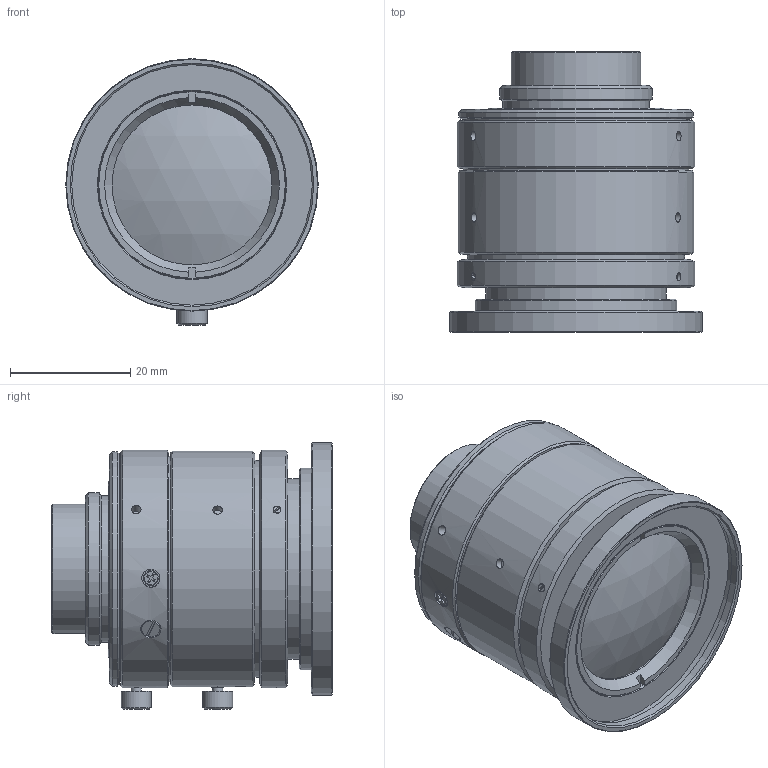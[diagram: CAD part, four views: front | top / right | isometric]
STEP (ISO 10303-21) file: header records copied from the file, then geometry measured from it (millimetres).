
FILE_DESCRIPTION( ( 'Unknown' ), '1' );
FILE_NAME( 'C:/Users/140166/Desktop/V1228-MPY_12mm.stp', 'Unknown', ( 'Unknown' ), ( 'Unknown' ), 'PSStep 17.0.49', 'Unknown', ' ' );
FILE_SCHEMA( ( 'AUTOMOTIVE_DESIGN { 1 0 10303 214 1 1 1 1 }' ) );
Length unit declared in the file: millimetre
Products named in the file (1): V1228-MPY_12mm
Bounding box: 42 x 46.65 x 44.35 mm (x, y, z)
Volume: 43890 mm3; surface area: 10495.5 mm2
Topology: 1 solids, 6 shells, 281 faces, 696 edges, 464 vertices
Faces by surface type: plane 167, cylinder 69, cone 41, torus 2, sphere 2
Full cylindrical faces by diameter (mm): 1.321 x6, 1.5 x1, 1.567 x5, 1.7 x6, 1.8 x3, 2 x1, 2.5 x2, 2.8 x1, 3 x5, 3.4 x1, 3.5 x3, 4.999 x2, 16.8 x1, 20 x1, 21.5 x1, 24.4 x1, 25.4 x1, 26.6 x1, 30 x1, 33.5 x1, 36.1 x1, 37.6 x2, 39 x1, 39.2 x1, 39.5 x2, 40 x1, 40.5 x1, 42 x1
Entity records: 10332 total; most frequent: CARTESIAN_POINT 1996, DIRECTION 1234, ORIENTED_EDGE 1114, EDGE_CURVE 557, AXIS2_PLACEMENT_3D 440, EDGE_LOOP 420, VERTEX_POINT 419, LINE 354
